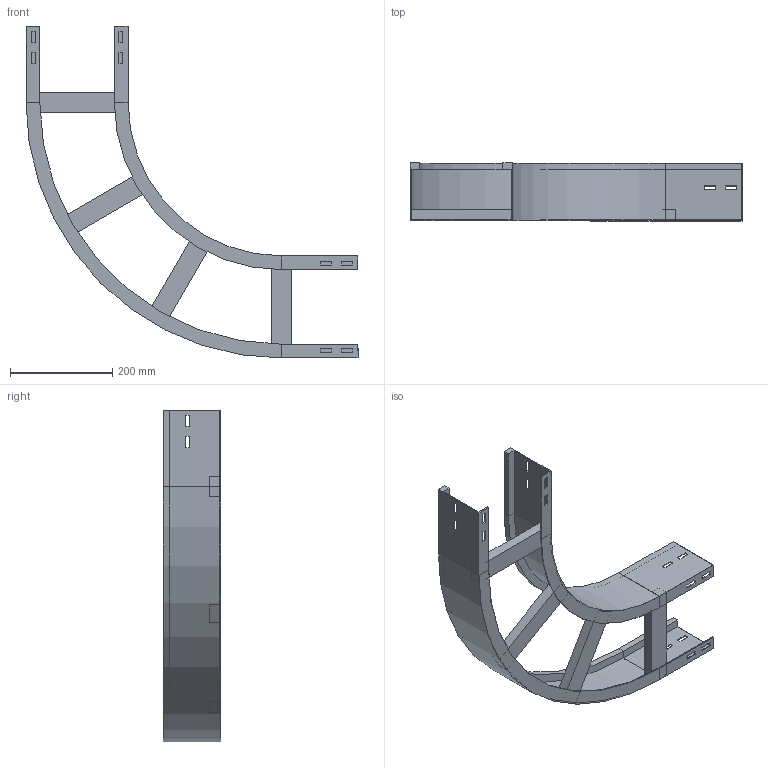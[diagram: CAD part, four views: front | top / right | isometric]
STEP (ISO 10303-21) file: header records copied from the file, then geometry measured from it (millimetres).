
FILE_DESCRIPTION (( 'STEP AP214' ), '1' );
FILE_NAME ('A2_10B3J200.step', '2025-02-21T15:24:32', ( '' ), ( '' ), 'SwSTEP 2.0', 'SolidWorks 2023', '' );
FILE_SCHEMA (( 'AUTOMOTIVE_DESIGN' ));
Length unit declared in the file: millimetre
Products named in the file (4): A2_10B3J200; TRAVERSINO_200; A2_LONGH.INTERNO 90°_H112.5_R300; A2_LONGH.ESTERNO 90°_H112.5_R300+200
Assembly tree (6 placements, depth 2):
  A2_10B3J200
    A2_LONGH.INTERNO 90°_H112.5_R300
    A2_LONGH.ESTERNO 90°_H112.5_R300+200
    TRAVERSINO_200  x4
Bounding box: 650 x 112.5 x 650 mm (x, y, z)
Volume: 1497161.5 mm3; surface area: 677554.1 mm2
Topology: 6 solids, 6 shells, 140 faces, 352 edges, 224 vertices
Faces by surface type: plane 132, cylinder 8
Entity records: 3829 total; most frequent: CARTESIAN_POINT 647, ORIENTED_EDGE 632, DIRECTION 594, EDGE_CURVE 316, VECTOR 300, LINE 300, VERTEX_POINT 200, EDGE_LOOP 154
